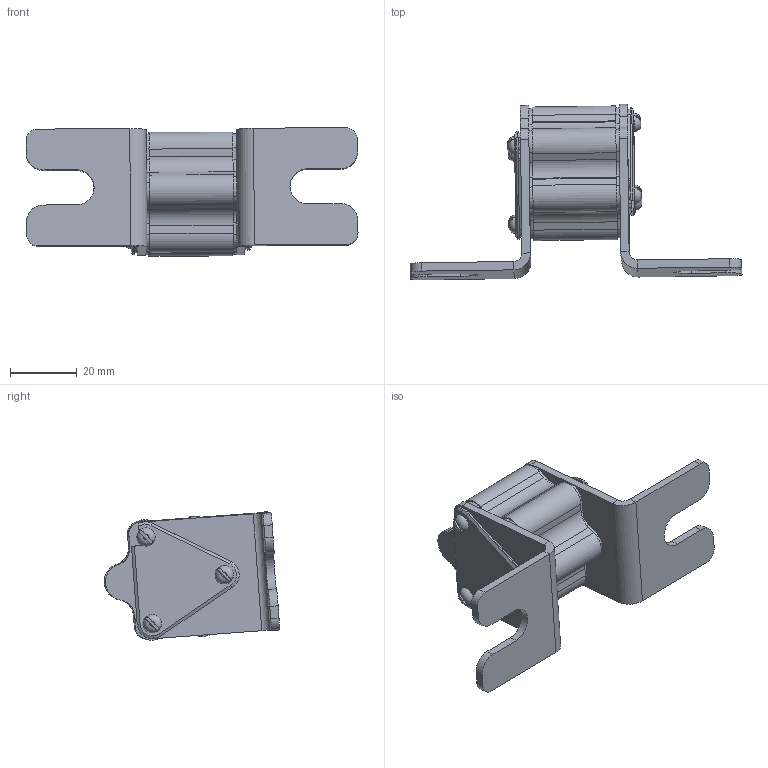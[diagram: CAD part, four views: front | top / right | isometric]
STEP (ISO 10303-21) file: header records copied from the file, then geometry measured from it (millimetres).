
FILE_DESCRIPTION (( 'STEP AP214' ), '1' );
FILE_NAME ('砎槼隰譇膻蠈錪 珫57-34270.STEP', '2022-09-22T10:57:09', ( '' ), ( '' ), 'SwSTEP 2.0', 'SolidWorks 2018', '' );
FILE_SCHEMA (( 'AUTOMOTIVE_DESIGN' ));
Length unit declared in the file: millimetre
Products named in the file (11): Êîíòàêò îñíîâàíèÿ ÃÆÈÊ.685179.042; 砎槼隰譇膻蠈錪 珫57-34270; Êîíòàêò îñíîâàíèÿ ÃÆÈÊ.745216.004; 暑痫篑 闷仁.757513.008_-00; Ýëåìåíò ïëàâêèé ÃÆÈÊ.745222.001-14_3427; Êîíòàêò îñíîâàíèÿ ÃÆÈÊ.745216.002; Âèíò M3 ÃÎÑÒ 17473_‚¨­â ‚.Œ3å10.58.019 ƒŽ‘’ 17473-80; Ïðîêëàäêà ÃÆÈÊ.741111.001_-02; 署赅 闷仁.301164.001_-06...-11; Ïðîêëàäêà ÃÆÈÊ.741322.006-02 (-03); 署赅 闷仁.745152.001_-06
Assembly tree (19 placements, depth 3):
  砎槼隰譇膻蠈錪 珫57-34270
    Êîíòàêò îñíîâàíèÿ ÃÆÈÊ.685179.042
      Êîíòàêò îñíîâàíèÿ ÃÆÈÊ.745216.002
      Ýëåìåíò ïëàâêèé ÃÆÈÊ.745222.001-14_3427  x2
    Ïðîêëàäêà ÃÆÈÊ.741322.006-02 (-03)  x2
    Êîíòàêò îñíîâàíèÿ ÃÆÈÊ.745216.004
    署赅 闷仁.301164.001_-06...-11  x2
      署赅 闷仁.745152.001_-06
      Ïðîêëàäêà ÃÆÈÊ.741111.001_-02
    Âèíò M3 ÃÎÑÒ 17473_‚¨­â ‚.Œ3å10.58.019 ƒŽ‘’ 17473-80  x6
    Ïðîêëàäêà ÃÆÈÊ.741111.001_-02
    暑痫篑 闷仁.757513.008_-00
Bounding box: 99.17 x 52.45 x 38.39 mm (x, y, z)
Volume: 32424.6 mm3; surface area: 30017.8 mm2
Topology: 18 solids, 18 shells, 625 faces, 1641 edges, 1054 vertices
Faces by surface type: cylinder 300, plane 255, cone 40, bspline 18, torus 12
Entity records: 22904 total; most frequent: CARTESIAN_POINT 12549, ORIENTED_EDGE 2224, DIRECTION 1970, EDGE_CURVE 1112, VERTEX_POINT 723, AXIS2_PLACEMENT_3D 708, LINE 554, VECTOR 554
